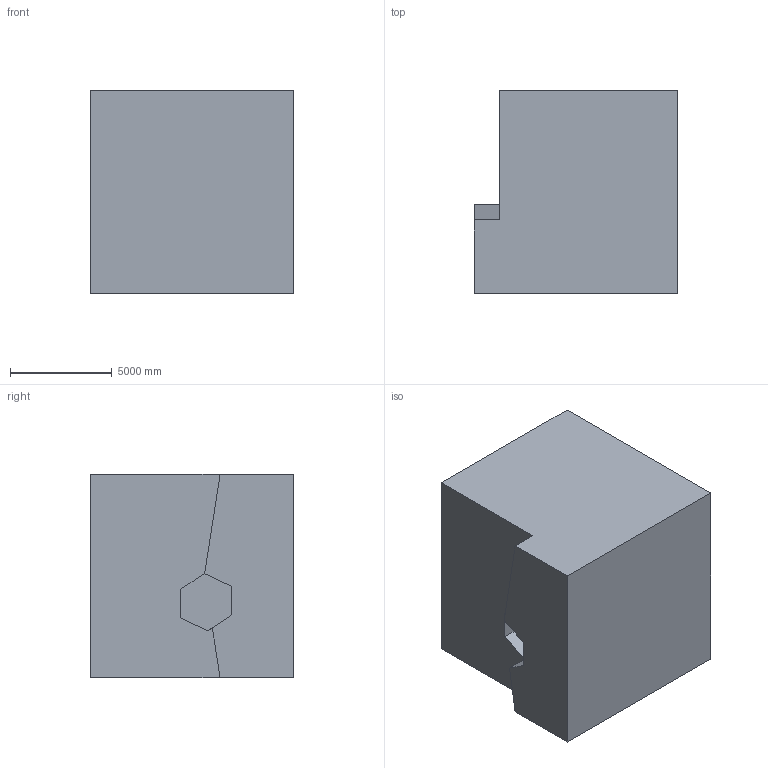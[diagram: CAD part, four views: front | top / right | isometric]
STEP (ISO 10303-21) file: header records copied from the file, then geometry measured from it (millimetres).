
FILE_DESCRIPTION (( 'STEP AP203' ), '1' );
FILE_NAME ('5.STEP', '2022-08-31T11:08:02', ( 'user' ), ( '' ), 'SwSTEP 2.0', 'SolidWorks 2021', '' );
FILE_SCHEMA (( 'CONFIG_CONTROL_DESIGN' ));
Length unit declared in the file: centimetre
Products named in the file (1): 5
Bounding box: 10000 x 10000 x 10000 mm (x, y, z)
Volume: 893576589846.9 mm3; surface area: 633165488.9 mm2
Topology: 1 solids, 1 shells, 16 faces, 42 edges, 28 vertices
Faces by surface type: plane 16
Entity records: 563 total; most frequent: CARTESIAN_POINT 87, ORIENTED_EDGE 84, DIRECTION 76, VECTOR 42, LINE 42, EDGE_CURVE 42, VERTEX_POINT 28, AXIS2_PLACEMENT_3D 17
